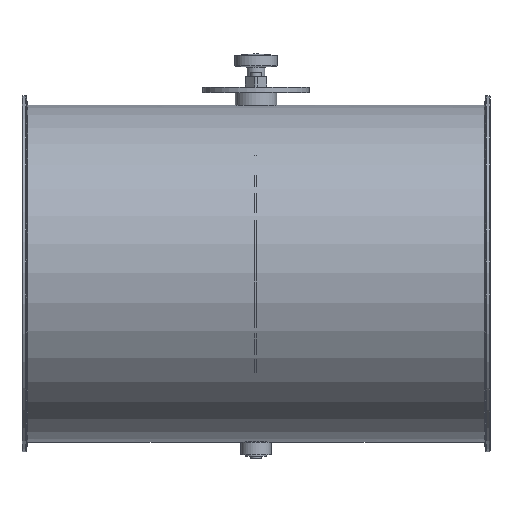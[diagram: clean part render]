
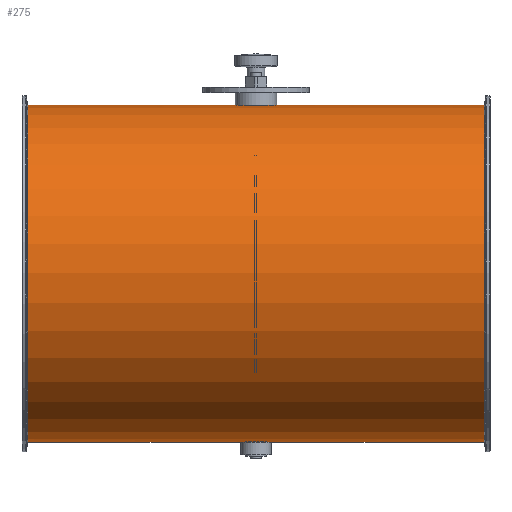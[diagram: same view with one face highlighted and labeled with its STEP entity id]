
A CAD part, top view. The second image highlights one B-rep face of the part: STEP entity #275.
In plain terms, the highlighted cylindrical face has radius 158.3 mm (diameter 316.6 mm), a full revolution.
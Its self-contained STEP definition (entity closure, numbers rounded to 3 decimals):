
#275=ADVANCED_FACE('',(#399,#400,#401,#402),#360,.T.);
#360=CYLINDRICAL_SURFACE('',#1232,158.3);
#395=B_SPLINE_CURVE_WITH_KNOTS('',3,(#1748,#1749,#1750,#1751,#1752,#1753,
#1754,#1755,#1756,#1757,#1758,#1759,#1760,#1761,#1762,#1763,#1764,#1765),
 .UNSPECIFIED.,.T.,.F.,(2,2,2,2,2,2,2,2,2,2,2),(-0.125,0.,0.125,
0.25,0.375,0.5,0.625,0.75,0.875,1.,
1.125),.UNSPECIFIED.);
#396=B_SPLINE_CURVE_WITH_KNOTS('',3,(#1767,#1768,#1769,#1770,#1771,#1772,
#1773,#1774,#1775,#1776,#1777,#1778,#1779,#1780,#1781,#1782,#1783,#1784),
 .UNSPECIFIED.,.T.,.F.,(2,2,2,2,2,2,2,2,2,2,2),(-0.125,0.,0.125,
0.25,0.375,0.5,0.625,0.75,0.875,1.,
1.125),.UNSPECIFIED.);
#399=FACE_BOUND('',#539,.T.);
#400=FACE_BOUND('',#540,.T.);
#401=FACE_BOUND('',#541,.T.);
#402=FACE_BOUND('',#542,.T.);
#539=EDGE_LOOP('',(#701));
#540=EDGE_LOOP('',(#702));
#541=EDGE_LOOP('',(#703));
#542=EDGE_LOOP('',(#704));
#701=ORIENTED_EDGE('',*,*,#1039,.T.);
#702=ORIENTED_EDGE('',*,*,#1040,.F.);
#703=ORIENTED_EDGE('',*,*,#1041,.F.);
#704=ORIENTED_EDGE('',*,*,#1042,.T.);
#937=VERTEX_POINT('',#1747);
#938=VERTEX_POINT('',#1766);
#939=VERTEX_POINT('',#1785);
#940=VERTEX_POINT('',#1787);
#1039=EDGE_CURVE('',#937,#937,#1157,.T.);
#1040=EDGE_CURVE('',#938,#938,#395,.T.);
#1041=EDGE_CURVE('',#939,#939,#396,.T.);
#1042=EDGE_CURVE('',#940,#940,#1158,.T.);
#1157=CIRCLE('',#1230,158.3);
#1158=CIRCLE('',#1231,158.3);
#1230=AXIS2_PLACEMENT_3D('',#1746,#1389,#1390);
#1231=AXIS2_PLACEMENT_3D('',#1786,#1391,#1392);
#1232=AXIS2_PLACEMENT_3D('',#1788,#1393,#1394);
#1389=DIRECTION('',(-1.,0.,0.));
#1390=DIRECTION('',(0.,0.,-1.));
#1391=DIRECTION('',(1.,0.,0.));
#1392=DIRECTION('',(0.,0.,1.));
#1393=DIRECTION('',(1.,0.,0.));
#1394=DIRECTION('',(0.,0.,-1.));
#1746=CARTESIAN_POINT('',(214.804,-51.,125.));
#1747=CARTESIAN_POINT('',(214.804,-51.,-33.3));
#1748=CARTESIAN_POINT('',(2.643,106.984,115.));
#1749=CARTESIAN_POINT('',(-2.643,106.984,115.));
#1750=CARTESIAN_POINT('',(-5.227,107.06,116.085));
#1751=CARTESIAN_POINT('',(-8.916,107.225,119.774));
#1752=CARTESIAN_POINT('',(-9.999,107.3,122.385));
#1753=CARTESIAN_POINT('',(-10.001,107.3,127.604));
#1754=CARTESIAN_POINT('',(-8.941,107.226,130.2));
#1755=CARTESIAN_POINT('',(-5.208,107.059,133.936));
#1756=CARTESIAN_POINT('',(-2.614,106.984,134.999));
#1757=CARTESIAN_POINT('',(2.607,106.984,135.001));
#1758=CARTESIAN_POINT('',(5.219,107.059,133.92));
#1759=CARTESIAN_POINT('',(8.91,107.224,130.236));
#1760=CARTESIAN_POINT('',(9.997,107.3,127.649));
#1761=CARTESIAN_POINT('',(10.003,107.3,122.37));
#1762=CARTESIAN_POINT('',(8.921,107.225,119.782));
#1763=CARTESIAN_POINT('',(5.233,107.06,116.088));
#1764=CARTESIAN_POINT('',(2.643,106.984,115.));
#1765=CARTESIAN_POINT('',(-2.643,106.984,115.));
#1766=CARTESIAN_POINT('',(0.,106.984,115.));
#1767=CARTESIAN_POINT('',(-2.643,-208.984,115.));
#1768=CARTESIAN_POINT('',(2.643,-208.984,115.));
#1769=CARTESIAN_POINT('',(5.227,-209.06,116.085));
#1770=CARTESIAN_POINT('',(8.916,-209.225,119.774));
#1771=CARTESIAN_POINT('',(9.999,-209.3,122.385));
#1772=CARTESIAN_POINT('',(10.001,-209.3,127.604));
#1773=CARTESIAN_POINT('',(8.941,-209.226,130.2));
#1774=CARTESIAN_POINT('',(5.208,-209.059,133.936));
#1775=CARTESIAN_POINT('',(2.614,-208.984,134.999));
#1776=CARTESIAN_POINT('',(-2.607,-208.984,135.001));
#1777=CARTESIAN_POINT('',(-5.219,-209.059,133.92));
#1778=CARTESIAN_POINT('',(-8.91,-209.224,130.236));
#1779=CARTESIAN_POINT('',(-9.997,-209.3,127.649));
#1780=CARTESIAN_POINT('',(-10.003,-209.3,122.37));
#1781=CARTESIAN_POINT('',(-8.921,-209.225,119.782));
#1782=CARTESIAN_POINT('',(-5.233,-209.06,116.088));
#1783=CARTESIAN_POINT('',(-2.643,-208.984,115.));
#1784=CARTESIAN_POINT('',(2.643,-208.984,115.));
#1785=CARTESIAN_POINT('',(0.,-208.984,115.));
#1786=CARTESIAN_POINT('',(-214.804,-51.,125.));
#1787=CARTESIAN_POINT('',(-214.804,-51.,283.3));
#1788=CARTESIAN_POINT('',(-220.,-51.,125.));
